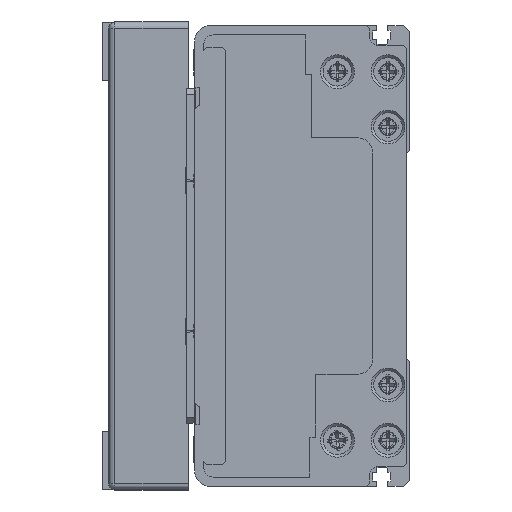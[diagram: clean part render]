
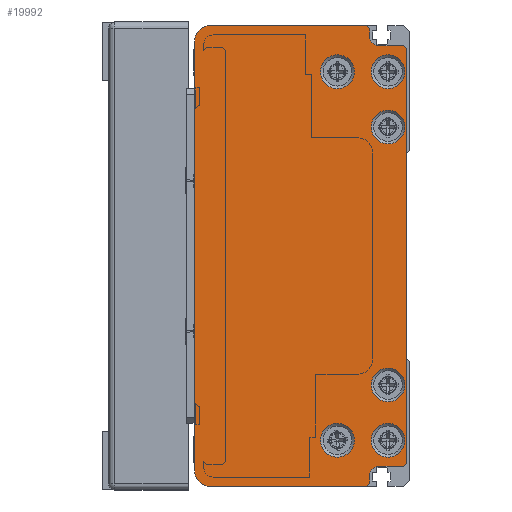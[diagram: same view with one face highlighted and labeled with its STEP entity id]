
A CAD part, left-side view. The second image highlights one B-rep face of the part: STEP entity #19992.
In plain terms, the highlighted planar face has unit normal (-1, 0, 0) as drawn and (0, 0, -1) by its records, which use the part's own axes.
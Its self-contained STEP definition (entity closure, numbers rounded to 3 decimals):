
#934=LINE('',#28962,#2599);
#935=LINE('',#28966,#2600);
#936=LINE('',#28968,#2601);
#937=LINE('',#28970,#2602);
#938=LINE('',#28974,#2603);
#939=LINE('',#28976,#2604);
#940=LINE('',#28978,#2605);
#941=LINE('',#28980,#2606);
#942=LINE('',#28982,#2607);
#943=LINE('',#28986,#2608);
#944=LINE('',#28988,#2609);
#945=LINE('',#28990,#2610);
#2599=VECTOR('',#23527,140.);
#2600=VECTOR('',#23530,51.);
#2601=VECTOR('',#23531,1.414);
#2602=VECTOR('',#23532,2.5);
#2603=VECTOR('',#23535,8.);
#2604=VECTOR('',#23536,1.414);
#2605=VECTOR('',#23537,135.);
#2606=VECTOR('',#23538,1.414);
#2607=VECTOR('',#23539,8.);
#2608=VECTOR('',#23542,2.5);
#2609=VECTOR('',#23543,1.414);
#2610=VECTOR('',#23544,51.);
#4217=PLANE('',#21382);
#4852=FACE_BOUND('',#6736,.T.);
#4853=FACE_BOUND('',#6737,.T.);
#4854=FACE_BOUND('',#6738,.T.);
#4855=FACE_BOUND('',#6739,.T.);
#4856=FACE_BOUND('',#6740,.T.);
#4857=FACE_BOUND('',#6741,.T.);
#5435=FACE_OUTER_BOUND('',#6735,.T.);
#6735=EDGE_LOOP('',(#14055,#14056,#14057,#14058,#14059,#14060,#14061,#14062,
#14063,#14064,#14065,#14066,#14067,#14068,#14069,#14070));
#6736=EDGE_LOOP('',(#14071));
#6737=EDGE_LOOP('',(#14072));
#6738=EDGE_LOOP('',(#14073));
#6739=EDGE_LOOP('',(#14074));
#6740=EDGE_LOOP('',(#14075));
#6741=EDGE_LOOP('',(#14076));
#8265=CIRCLE('',#21383,5.);
#8266=CIRCLE('',#21384,3.);
#8267=CIRCLE('',#21385,3.);
#8268=CIRCLE('',#21386,5.);
#8269=CIRCLE('',#21387,5.5);
#8270=CIRCLE('',#21388,5.5);
#8271=CIRCLE('',#21389,5.5);
#8272=CIRCLE('',#21390,5.5);
#8273=CIRCLE('',#21391,5.5);
#8274=CIRCLE('',#21392,5.5);
#8969=VERTEX_POINT('',#28960);
#8970=VERTEX_POINT('',#28961);
#8971=VERTEX_POINT('',#28963);
#8972=VERTEX_POINT('',#28965);
#8973=VERTEX_POINT('',#28967);
#8974=VERTEX_POINT('',#28969);
#8975=VERTEX_POINT('',#28971);
#8976=VERTEX_POINT('',#28973);
#8977=VERTEX_POINT('',#28975);
#8978=VERTEX_POINT('',#28977);
#8979=VERTEX_POINT('',#28979);
#8980=VERTEX_POINT('',#28981);
#8981=VERTEX_POINT('',#28983);
#8982=VERTEX_POINT('',#28985);
#8983=VERTEX_POINT('',#28987);
#8984=VERTEX_POINT('',#28989);
#8985=VERTEX_POINT('',#28992);
#8986=VERTEX_POINT('',#28994);
#8987=VERTEX_POINT('',#28996);
#8988=VERTEX_POINT('',#28998);
#8989=VERTEX_POINT('',#29000);
#8990=VERTEX_POINT('',#29002);
#11017=EDGE_CURVE('',#8969,#8970,#934,.T.);
#11018=EDGE_CURVE('',#8970,#8971,#8265,.T.);
#11019=EDGE_CURVE('',#8971,#8972,#935,.T.);
#11020=EDGE_CURVE('',#8972,#8973,#936,.T.);
#11021=EDGE_CURVE('',#8973,#8974,#937,.T.);
#11022=EDGE_CURVE('',#8974,#8975,#8266,.T.);
#11023=EDGE_CURVE('',#8975,#8976,#938,.T.);
#11024=EDGE_CURVE('',#8976,#8977,#939,.T.);
#11025=EDGE_CURVE('',#8977,#8978,#940,.T.);
#11026=EDGE_CURVE('',#8978,#8979,#941,.T.);
#11027=EDGE_CURVE('',#8979,#8980,#942,.T.);
#11028=EDGE_CURVE('',#8980,#8981,#8267,.T.);
#11029=EDGE_CURVE('',#8981,#8982,#943,.T.);
#11030=EDGE_CURVE('',#8982,#8983,#944,.T.);
#11031=EDGE_CURVE('',#8983,#8984,#945,.T.);
#11032=EDGE_CURVE('',#8984,#8969,#8268,.T.);
#11033=EDGE_CURVE('',#8985,#8985,#8269,.T.);
#11034=EDGE_CURVE('',#8986,#8986,#8270,.T.);
#11035=EDGE_CURVE('',#8987,#8987,#8271,.T.);
#11036=EDGE_CURVE('',#8988,#8988,#8272,.T.);
#11037=EDGE_CURVE('',#8989,#8989,#8273,.T.);
#11038=EDGE_CURVE('',#8990,#8990,#8274,.T.);
#14055=ORIENTED_EDGE('',*,*,#11017,.T.);
#14056=ORIENTED_EDGE('',*,*,#11018,.T.);
#14057=ORIENTED_EDGE('',*,*,#11019,.T.);
#14058=ORIENTED_EDGE('',*,*,#11020,.T.);
#14059=ORIENTED_EDGE('',*,*,#11021,.T.);
#14060=ORIENTED_EDGE('',*,*,#11022,.T.);
#14061=ORIENTED_EDGE('',*,*,#11023,.T.);
#14062=ORIENTED_EDGE('',*,*,#11024,.T.);
#14063=ORIENTED_EDGE('',*,*,#11025,.T.);
#14064=ORIENTED_EDGE('',*,*,#11026,.T.);
#14065=ORIENTED_EDGE('',*,*,#11027,.T.);
#14066=ORIENTED_EDGE('',*,*,#11028,.T.);
#14067=ORIENTED_EDGE('',*,*,#11029,.T.);
#14068=ORIENTED_EDGE('',*,*,#11030,.T.);
#14069=ORIENTED_EDGE('',*,*,#11031,.T.);
#14070=ORIENTED_EDGE('',*,*,#11032,.T.);
#14071=ORIENTED_EDGE('',*,*,#11033,.T.);
#14072=ORIENTED_EDGE('',*,*,#11034,.T.);
#14073=ORIENTED_EDGE('',*,*,#11035,.T.);
#14074=ORIENTED_EDGE('',*,*,#11036,.T.);
#14075=ORIENTED_EDGE('',*,*,#11037,.T.);
#14076=ORIENTED_EDGE('',*,*,#11038,.T.);
#19992=ADVANCED_FACE('',(#5435,#4852,#4853,#4854,#4855,#4856,#4857),#4217,
 .F.);
#21382=AXIS2_PLACEMENT_3D('',#28959,#23525,#23526);
#21383=AXIS2_PLACEMENT_3D('',#28964,#23528,#23529);
#21384=AXIS2_PLACEMENT_3D('',#28972,#23533,#23534);
#21385=AXIS2_PLACEMENT_3D('',#28984,#23540,#23541);
#21386=AXIS2_PLACEMENT_3D('',#28991,#23545,#23546);
#21387=AXIS2_PLACEMENT_3D('',#28993,#23547,#23548);
#21388=AXIS2_PLACEMENT_3D('',#28995,#23549,#23550);
#21389=AXIS2_PLACEMENT_3D('',#28997,#23551,#23552);
#21390=AXIS2_PLACEMENT_3D('',#28999,#23553,#23554);
#21391=AXIS2_PLACEMENT_3D('',#29001,#23555,#23556);
#21392=AXIS2_PLACEMENT_3D('',#29003,#23557,#23558);
#23525=DIRECTION('center_axis',(0.,0.,
1.));
#23526=DIRECTION('ref_axis',(1.,0.,0.));
#23527=DIRECTION('',(1.,0.,0.));
#23528=DIRECTION('center_axis',(0.,0.,
-1.));
#23529=DIRECTION('ref_axis',(-1.,0.,0.));
#23530=DIRECTION('',(0.,-1.,0.));
#23531=DIRECTION('',(-0.707,-0.707,0.));
#23532=DIRECTION('',(-1.,0.,0.));
#23533=DIRECTION('center_axis',(0.,0.,
1.));
#23534=DIRECTION('ref_axis',(0.,1.,0.));
#23535=DIRECTION('',(0.,-1.,0.));
#23536=DIRECTION('',(-0.707,-0.707,0.));
#23537=DIRECTION('',(-1.,0.,0.));
#23538=DIRECTION('',(-0.707,0.707,0.));
#23539=DIRECTION('',(0.,1.,0.));
#23540=DIRECTION('center_axis',(0.,0.,
1.));
#23541=DIRECTION('ref_axis',(1.,0.,0.));
#23542=DIRECTION('',(-1.,0.,0.));
#23543=DIRECTION('',(-0.707,0.707,0.));
#23544=DIRECTION('',(0.,1.,0.));
#23545=DIRECTION('center_axis',(0.,0.,
-1.));
#23546=DIRECTION('ref_axis',(0.,-1.,0.));
#23547=DIRECTION('center_axis',(0.,0.,
1.));
#23548=DIRECTION('ref_axis',(-1.,0.,0.));
#23549=DIRECTION('center_axis',(0.,0.,
1.));
#23550=DIRECTION('ref_axis',(-1.,0.,0.));
#23551=DIRECTION('center_axis',(0.,0.,
1.));
#23552=DIRECTION('ref_axis',(-1.,0.,0.));
#23553=DIRECTION('center_axis',(0.,0.,
1.));
#23554=DIRECTION('ref_axis',(-1.,0.,0.));
#23555=DIRECTION('center_axis',(0.,0.,
1.));
#23556=DIRECTION('ref_axis',(-1.,0.,0.));
#23557=DIRECTION('center_axis',(0.,0.,
1.));
#23558=DIRECTION('ref_axis',(-1.,0.,0.));
#28959=CARTESIAN_POINT('Origin',(0.25,38.047,-1769.));
#28960=CARTESIAN_POINT('',(-69.75,72.25,-1769.));
#28961=CARTESIAN_POINT('',(70.25,72.25,-1769.));
#28962=CARTESIAN_POINT('',(-69.75,72.25,-1769.));
#28963=CARTESIAN_POINT('',(75.25,67.25,-1769.));
#28964=CARTESIAN_POINT('Origin',(70.25,67.25,-1769.));
#28965=CARTESIAN_POINT('',(75.25,16.25,-1769.));
#28966=CARTESIAN_POINT('',(75.25,67.25,-1769.));
#28967=CARTESIAN_POINT('',(74.25,15.25,-1769.));
#28968=CARTESIAN_POINT('',(75.25,16.25,-1769.));
#28969=CARTESIAN_POINT('',(71.75,15.25,-1769.));
#28970=CARTESIAN_POINT('',(74.25,15.25,-1769.));
#28971=CARTESIAN_POINT('',(68.75,12.25,-1769.));
#28972=CARTESIAN_POINT('Origin',(71.75,12.25,-1769.));
#28973=CARTESIAN_POINT('',(68.75,4.25,-1769.));
#28974=CARTESIAN_POINT('',(68.75,12.25,-1769.));
#28975=CARTESIAN_POINT('',(67.75,3.25,-1769.));
#28976=CARTESIAN_POINT('',(68.75,4.25,-1769.));
#28977=CARTESIAN_POINT('',(-67.25,3.25,-1769.));
#28978=CARTESIAN_POINT('',(67.75,3.25,-1769.));
#28979=CARTESIAN_POINT('',(-68.25,4.25,-1769.));
#28980=CARTESIAN_POINT('',(-67.25,3.25,-1769.));
#28981=CARTESIAN_POINT('',(-68.25,12.25,-1769.));
#28982=CARTESIAN_POINT('',(-68.25,4.25,-1769.));
#28983=CARTESIAN_POINT('',(-71.25,15.25,-1769.));
#28984=CARTESIAN_POINT('Origin',(-71.25,12.25,-1769.));
#28985=CARTESIAN_POINT('',(-73.75,15.25,-1769.));
#28986=CARTESIAN_POINT('',(-71.25,15.25,-1769.));
#28987=CARTESIAN_POINT('',(-74.75,16.25,-1769.));
#28988=CARTESIAN_POINT('',(-73.75,15.25,-1769.));
#28989=CARTESIAN_POINT('',(-74.75,67.25,-1769.));
#28990=CARTESIAN_POINT('',(-74.75,16.25,-1769.));
#28991=CARTESIAN_POINT('Origin',(-69.75,67.25,-1769.));
#28992=CARTESIAN_POINT('',(-47.25,9.25,-1769.));
#28993=CARTESIAN_POINT('Origin',(-41.75,9.25,-1769.));
#28994=CARTESIAN_POINT('',(36.75,9.25,-1769.));
#28995=CARTESIAN_POINT('Origin',(42.25,9.25,-1769.));
#28996=CARTESIAN_POINT('',(-65.25,25.75,-1769.));
#28997=CARTESIAN_POINT('Origin',(-59.75,25.75,-1769.));
#28998=CARTESIAN_POINT('',(54.75,25.75,-1769.));
#28999=CARTESIAN_POINT('Origin',(60.25,25.75,-1769.));
#29000=CARTESIAN_POINT('',(-65.25,9.25,-1769.));
#29001=CARTESIAN_POINT('Origin',(-59.75,9.25,-1769.));
#29002=CARTESIAN_POINT('',(54.75,9.25,-1769.));
#29003=CARTESIAN_POINT('Origin',(60.25,9.25,-1769.));
